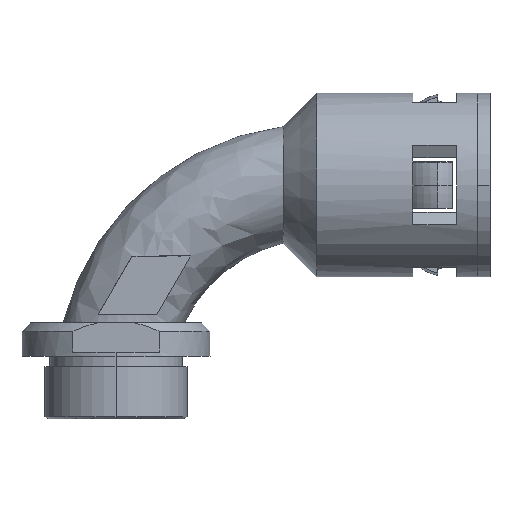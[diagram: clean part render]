
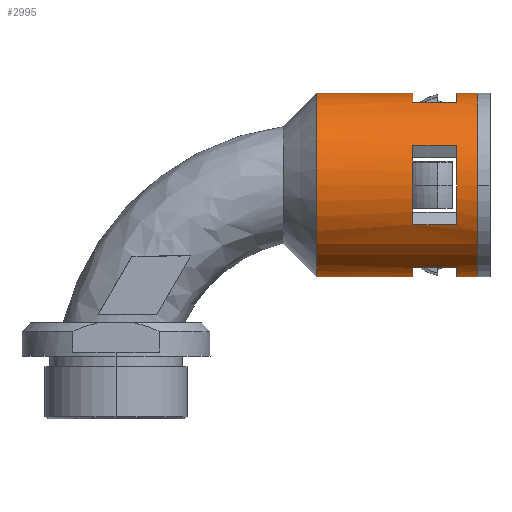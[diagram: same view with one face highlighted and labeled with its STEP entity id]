
A CAD part, left-side view. The second image highlights one B-rep face of the part: STEP entity #2995.
In plain terms, the highlighted cylindrical face has radius 22 mm (diameter 44 mm), a partial arc.
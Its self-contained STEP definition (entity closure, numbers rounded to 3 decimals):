
#43 = DIRECTION ( 'NONE',  ( 0., 1., 0. ) ) ;
#63 = DIRECTION ( 'NONE',  ( 0., 1., 0. ) ) ;
#88 = DIRECTION ( 'NONE',  ( 0., 1., 0. ) ) ;
#135 = CARTESIAN_POINT ( 'NONE',  ( 0., 0., 22. ) ) ;
#157 = ORIENTED_EDGE ( 'NONE', *, *, #2804, .T. ) ;
#238 = DIRECTION ( 'NONE',  ( 1., 0., 0. ) ) ;
#252 = ORIENTED_EDGE ( 'NONE', *, *, #2129, .F. ) ;
#287 = ORIENTED_EDGE ( 'NONE', *, *, #881, .F. ) ;
#313 = CARTESIAN_POINT ( 'NONE',  ( -19.824, 38.5, 9.54 ) ) ;
#428 = ORIENTED_EDGE ( 'NONE', *, *, #3641, .F. ) ;
#448 = CARTESIAN_POINT ( 'NONE',  ( -19.824, 5., -9.54 ) ) ;
#458 = VERTEX_POINT ( 'NONE', #5980 ) ;
#512 = CARTESIAN_POINT ( 'NONE',  ( 0., 38.5, -22. ) ) ;
#613 = ORIENTED_EDGE ( 'NONE', *, *, #4363, .F. ) ;
#663 = CARTESIAN_POINT ( 'NONE',  ( 0., 38.5, 22. ) ) ;
#741 = DIRECTION ( 'NONE',  ( 0., 0., 1. ) ) ;
#881 = EDGE_CURVE ( 'NONE', #2125, #3958, #4317, .T. ) ;
#898 = CIRCLE ( 'NONE', #6505, 22. ) ;
#918 = DIRECTION ( 'NONE',  ( 0., -1., 0. ) ) ;
#922 = CIRCLE ( 'NONE', #5168, 22. ) ;
#935 = LINE ( 'NONE', #512, #4254 ) ;
#948 = EDGE_CURVE ( 'NONE', #6040, #1911, #3675, .T. ) ;
#1049 = CARTESIAN_POINT ( 'NONE',  ( -9.54, 5., 19.824 ) ) ;
#1098 = DIRECTION ( 'NONE',  ( 0., 0., 1. ) ) ;
#1255 = CARTESIAN_POINT ( 'NONE',  ( 0., 38.5, 22. ) ) ;
#1470 = CARTESIAN_POINT ( 'NONE',  ( 0., 15.5, 22. ) ) ;
#1798 = DIRECTION ( 'NONE',  ( 0., -1., 0. ) ) ;
#1911 = VERTEX_POINT ( 'NONE', #2404 ) ;
#1949 = CARTESIAN_POINT ( 'NONE',  ( 0., 0., -22. ) ) ;
#2051 = ORIENTED_EDGE ( 'NONE', *, *, #6030, .F. ) ;
#2061 = CARTESIAN_POINT ( 'NONE',  ( 0., 38.5, 0. ) ) ;
#2079 = LINE ( 'NONE', #8014, #3597 ) ;
#2114 = AXIS2_PLACEMENT_3D ( 'NONE', #2061, #6733, #741 ) ;
#2125 = VERTEX_POINT ( 'NONE', #2281 ) ;
#2129 = EDGE_CURVE ( 'NONE', #8178, #6233, #4877, .T. ) ;
#2281 = CARTESIAN_POINT ( 'NONE',  ( 0., 38.5, -22. ) ) ;
#2314 = DIRECTION ( 'NONE',  ( 0., 1., 0. ) ) ;
#2338 = DIRECTION ( 'NONE',  ( 0., -1., 0. ) ) ;
#2344 = AXIS2_PLACEMENT_3D ( 'NONE', #6417, #5101, #6465 ) ;
#2404 = CARTESIAN_POINT ( 'NONE',  ( -19.824, 5., 9.54 ) ) ;
#2507 = CARTESIAN_POINT ( 'NONE',  ( -9.54, 38.5, -19.824 ) ) ;
#2713 = CARTESIAN_POINT ( 'NONE',  ( -19.824, 15.5, 9.54 ) ) ;
#2804 = EDGE_CURVE ( 'NONE', #4275, #3958, #5593, .T. ) ;
#2842 = AXIS2_PLACEMENT_3D ( 'NONE', #7938, #3957, #6071 ) ;
#2938 = VERTEX_POINT ( 'NONE', #4065 ) ;
#2995 = ADVANCED_FACE ( 'NONE', ( #4754, #3581 ), #7751, .T. ) ;
#3123 = AXIS2_PLACEMENT_3D ( 'NONE', #5401, #43, #3334 ) ;
#3334 = DIRECTION ( 'NONE',  ( 0., 0., -1. ) ) ;
#3397 = AXIS2_PLACEMENT_3D ( 'NONE', #8124, #918, #238 ) ;
#3488 = ORIENTED_EDGE ( 'NONE', *, *, #6907, .T. ) ;
#3568 = EDGE_LOOP ( 'NONE', ( #252, #8257, #5838, #6535, #3488, #428, #157, #287, #2051, #613, #4108, #6212 ) ) ;
#3581 = FACE_BOUND ( 'NONE', #7783, .T. ) ;
#3597 = VECTOR ( 'NONE', #88, 1000. ) ;
#3641 = EDGE_CURVE ( 'NONE', #4275, #2938, #5797, .T. ) ;
#3675 = LINE ( 'NONE', #313, #5901 ) ;
#3833 = VERTEX_POINT ( 'NONE', #135 ) ;
#3860 = EDGE_CURVE ( 'NONE', #8178, #3833, #898, .T. ) ;
#3902 = CARTESIAN_POINT ( 'NONE',  ( 0., 15.5, 0. ) ) ;
#3957 = DIRECTION ( 'NONE',  ( 0., -1., 0. ) ) ;
#3958 = VERTEX_POINT ( 'NONE', #5856 ) ;
#4016 = EDGE_CURVE ( 'NONE', #4579, #458, #5698, .T. ) ;
#4065 = CARTESIAN_POINT ( 'NONE',  ( -9.54, 15.5, 19.824 ) ) ;
#4108 = ORIENTED_EDGE ( 'NONE', *, *, #6610, .T. ) ;
#4226 = VERTEX_POINT ( 'NONE', #5417 ) ;
#4254 = VECTOR ( 'NONE', #63, 1000. ) ;
#4264 = CARTESIAN_POINT ( 'NONE',  ( 0., 38.5, 0. ) ) ;
#4275 = VERTEX_POINT ( 'NONE', #1470 ) ;
#4309 = CIRCLE ( 'NONE', #3123, 22. ) ;
#4317 = CIRCLE ( 'NONE', #8549, 22. ) ;
#4363 = EDGE_CURVE ( 'NONE', #4226, #6137, #8466, .T. ) ;
#4450 = EDGE_CURVE ( 'NONE', #6233, #5911, #7942, .T. ) ;
#4579 = VERTEX_POINT ( 'NONE', #448 ) ;
#4670 = ORIENTED_EDGE ( 'NONE', *, *, #8317, .F. ) ;
#4689 = EDGE_CURVE ( 'NONE', #4579, #1911, #4309, .T. ) ;
#4754 = FACE_OUTER_BOUND ( 'NONE', #3568, .T. ) ;
#4877 = LINE ( 'NONE', #7631, #6458 ) ;
#4945 = DIRECTION ( 'NONE',  ( 0., 1., 0. ) ) ;
#4990 = CIRCLE ( 'NONE', #2842, 22. ) ;
#5020 = DIRECTION ( 'NONE',  ( 0., 0., 1. ) ) ;
#5101 = DIRECTION ( 'NONE',  ( 0., 1., 0. ) ) ;
#5136 = DIRECTION ( 'NONE',  ( 0., 1., 0. ) ) ;
#5168 = AXIS2_PLACEMENT_3D ( 'NONE', #7628, #6383, #6281 ) ;
#5215 = CARTESIAN_POINT ( 'NONE',  ( -19.824, 38.5, -9.54 ) ) ;
#5280 = DIRECTION ( 'NONE',  ( 0., 1., 0. ) ) ;
#5401 = CARTESIAN_POINT ( 'NONE',  ( 0., 5., 0. ) ) ;
#5417 = CARTESIAN_POINT ( 'NONE',  ( -9.54, 15.5, -19.824 ) ) ;
#5593 = LINE ( 'NONE', #1255, #8473 ) ;
#5668 = ORIENTED_EDGE ( 'NONE', *, *, #948, .T. ) ;
#5698 = LINE ( 'NONE', #5215, #8581 ) ;
#5772 = CARTESIAN_POINT ( 'NONE',  ( 0., 5., 22. ) ) ;
#5797 = CIRCLE ( 'NONE', #6937, 22. ) ;
#5838 = ORIENTED_EDGE ( 'NONE', *, *, #7411, .T. ) ;
#5856 = CARTESIAN_POINT ( 'NONE',  ( 0., 38.5, 22. ) ) ;
#5901 = VECTOR ( 'NONE', #2338, 1000. ) ;
#5911 = VERTEX_POINT ( 'NONE', #8385 ) ;
#5980 = CARTESIAN_POINT ( 'NONE',  ( -19.824, 15.5, -9.54 ) ) ;
#6030 = EDGE_CURVE ( 'NONE', #6137, #2125, #935, .T. ) ;
#6040 = VERTEX_POINT ( 'NONE', #2713 ) ;
#6071 = DIRECTION ( 'NONE',  ( 0., 0., 1. ) ) ;
#6137 = VERTEX_POINT ( 'NONE', #8020 ) ;
#6212 = ORIENTED_EDGE ( 'NONE', *, *, #4450, .F. ) ;
#6233 = VERTEX_POINT ( 'NONE', #7618 ) ;
#6281 = DIRECTION ( 'NONE',  ( 1., 0., 0. ) ) ;
#6337 = VECTOR ( 'NONE', #1798, 1000. ) ;
#6380 = CARTESIAN_POINT ( 'NONE',  ( 0., 0., 0. ) ) ;
#6383 = DIRECTION ( 'NONE',  ( 0., 1., 0. ) ) ;
#6417 = CARTESIAN_POINT ( 'NONE',  ( 0., 5., 0. ) ) ;
#6458 = VECTOR ( 'NONE', #4945, 1000. ) ;
#6465 = DIRECTION ( 'NONE',  ( -1., 0., 0. ) ) ;
#6505 = AXIS2_PLACEMENT_3D ( 'NONE', #6380, #5136, #1098 ) ;
#6535 = ORIENTED_EDGE ( 'NONE', *, *, #6562, .F. ) ;
#6548 = VERTEX_POINT ( 'NONE', #1049 ) ;
#6562 = EDGE_CURVE ( 'NONE', #6548, #7226, #922, .T. ) ;
#6570 = LINE ( 'NONE', #2507, #6337 ) ;
#6610 = EDGE_CURVE ( 'NONE', #4226, #5911, #6570, .T. ) ;
#6733 = DIRECTION ( 'NONE',  ( 0., 1., 0. ) ) ;
#6907 = EDGE_CURVE ( 'NONE', #6548, #2938, #2079, .T. ) ;
#6922 = VECTOR ( 'NONE', #5280, 1000. ) ;
#6937 = AXIS2_PLACEMENT_3D ( 'NONE', #3902, #7222, #7262 ) ;
#7188 = DIRECTION ( 'NONE',  ( 0., 1., 0. ) ) ;
#7222 = DIRECTION ( 'NONE',  ( 0., -1., 0. ) ) ;
#7226 = VERTEX_POINT ( 'NONE', #5772 ) ;
#7262 = DIRECTION ( 'NONE',  ( -1., 0., 0. ) ) ;
#7278 = DIRECTION ( 'NONE',  ( 0., 1., 0. ) ) ;
#7411 = EDGE_CURVE ( 'NONE', #3833, #7226, #8447, .T. ) ;
#7618 = CARTESIAN_POINT ( 'NONE',  ( 0., 5., -22. ) ) ;
#7628 = CARTESIAN_POINT ( 'NONE',  ( 0., 5., 0. ) ) ;
#7631 = CARTESIAN_POINT ( 'NONE',  ( 0., 38.5, -22. ) ) ;
#7668 = ORIENTED_EDGE ( 'NONE', *, *, #4689, .F. ) ;
#7751 = CYLINDRICAL_SURFACE ( 'NONE', #2114, 22. ) ;
#7783 = EDGE_LOOP ( 'NONE', ( #7668, #7962, #4670, #5668 ) ) ;
#7938 = CARTESIAN_POINT ( 'NONE',  ( 0., 15.5, 0. ) ) ;
#7942 = CIRCLE ( 'NONE', #2344, 22. ) ;
#7962 = ORIENTED_EDGE ( 'NONE', *, *, #4016, .T. ) ;
#8014 = CARTESIAN_POINT ( 'NONE',  ( -9.54, 38.5, 19.824 ) ) ;
#8020 = CARTESIAN_POINT ( 'NONE',  ( 0., 15.5, -22. ) ) ;
#8124 = CARTESIAN_POINT ( 'NONE',  ( 0., 15.5, 0. ) ) ;
#8178 = VERTEX_POINT ( 'NONE', #1949 ) ;
#8257 = ORIENTED_EDGE ( 'NONE', *, *, #3860, .T. ) ;
#8317 = EDGE_CURVE ( 'NONE', #6040, #458, #4990, .T. ) ;
#8385 = CARTESIAN_POINT ( 'NONE',  ( -9.54, 5., -19.824 ) ) ;
#8447 = LINE ( 'NONE', #663, #6922 ) ;
#8466 = CIRCLE ( 'NONE', #3397, 22. ) ;
#8473 = VECTOR ( 'NONE', #7188, 1000. ) ;
#8549 = AXIS2_PLACEMENT_3D ( 'NONE', #4264, #2314, #5020 ) ;
#8581 = VECTOR ( 'NONE', #7278, 1000. ) ;
